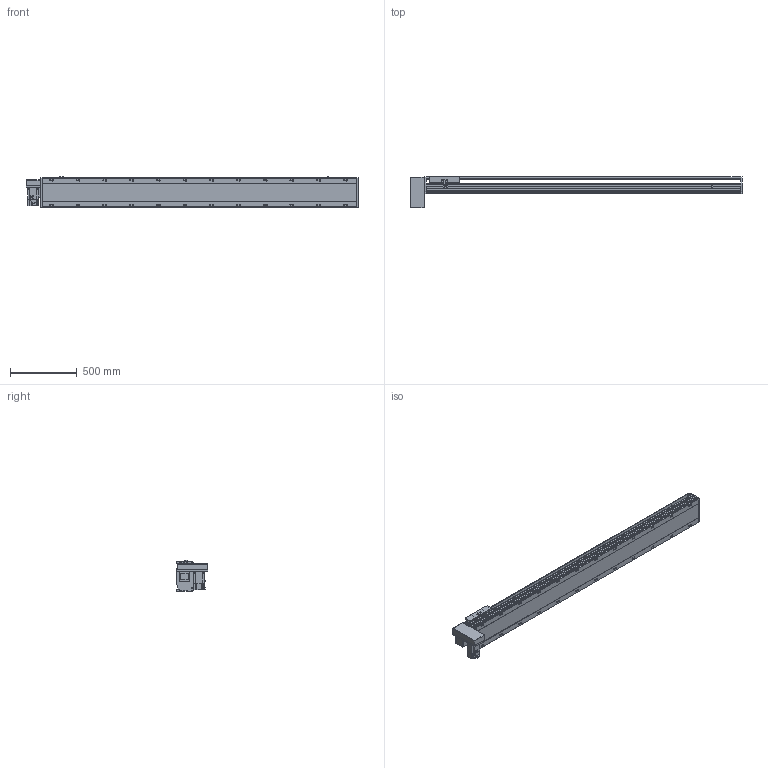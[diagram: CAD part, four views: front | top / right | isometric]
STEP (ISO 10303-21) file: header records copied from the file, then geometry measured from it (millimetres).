
FILE_DESCRIPTION(/* description */ ('STEP AP214'),/* implementation_level */ '2;1');
FILE_NAME(/* name */ 'PBS220-P40-S2000-RD-T75-C1-N(0)',/* time_stamp */ '2022-06-13T02:44:57+02:00',/* author */ ('License CC BY-ND 4.0'),/* organization */ ('CADENAS'),/* preprocessor_version */ 'ST-DEVELOPER v18.102',/* originating_system */ 'PARTsolutions',/* authorisation */ ' ');
FILE_SCHEMA (('AUTOMOTIVE_DESIGN {1 0 10303 214 3 1 1}'));
Length unit declared in the file: millimetre
Products named in the file (7): PBS220-P40-S2000-RD-T75-C1-N(0); PBS220_sensor; PBS220_plant; PBS220_sliser; T75-p1; PBS220T-RD_motors; PBS220-S2000()_body
Assembly tree (8 placements, depth 2):
  PBS220-P40-S2000-RD-T75-C1-N(0)
    PBS220_sensor  x3
    PBS220_plant
    PBS220_sliser
    T75-p1
    PBS220T-RD_motors
    PBS220-S2000()_body
Bounding box: 2484 x 239 x 238.5 mm (x, y, z)
Volume: 34929204.9 mm3; surface area: 3244970.9 mm2
Topology: 8 solids, 8 shells, 962 faces, 2508 edges, 1630 vertices
Faces by surface type: plane 614, cylinder 300, cone 48
Full cylindrical faces by diameter (mm): 2.013 x4, 4.5 x14, 4.917 x4, 6 x7, 6.647 x8, 8 x10, 8.376 x24, 8.5 x24, 10 x6, 14 x24, 38 x2, 40 x1, 70 x1
Entity records: 26877 total; most frequent: CARTESIAN_POINT 4756, DIRECTION 4671, ORIENTED_EDGE 4250, EDGE_CURVE 2125, AXIS2_PLACEMENT_3D 1659, VERTEX_POINT 1480, LINE 1353, VECTOR 1353
